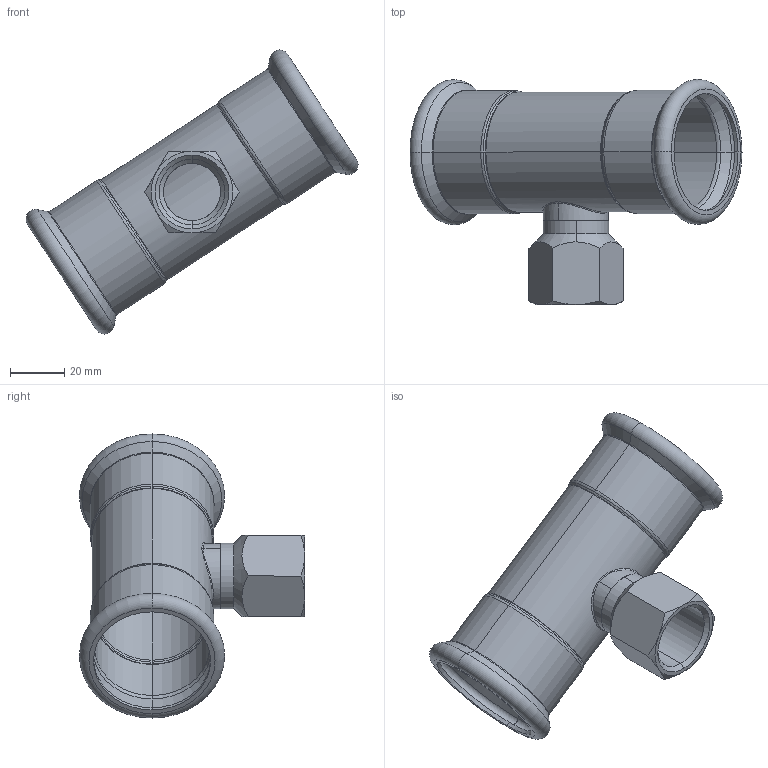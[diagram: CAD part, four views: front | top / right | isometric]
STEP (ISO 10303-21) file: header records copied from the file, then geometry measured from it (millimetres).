
FILE_DESCRIPTION (( 'STEP AP203' ), '1' );
FILE_NAME ('GDA5252.STEP', '2019-01-14T01:14:45', ( '' ), ( '' ), 'SwSTEP 2.0', 'SolidWorks 2015', '' );
FILE_SCHEMA (( 'CONFIG_CONTROL_DESIGN' ));
Length unit declared in the file: millimetre
Products named in the file (3): T(R)-¢ñ-42¡Á22''; ITC-I-03-22℅?; GDA5252
Assembly tree (2 placements, depth 2):
  GDA5252
    ITC-I-03-22℅?
    T(R)-¢ñ-42¡Á22''
Bounding box: 121.88 x 82.64 x 104.28 mm (x, y, z)
Volume: 33978.2 mm3; surface area: 40108.3 mm2
Topology: 2 solids, 2 shells, 103 faces, 218 edges, 122 vertices
Faces by surface type: torus 32, cone 28, cylinder 26, plane 13, bspline 4
Entity records: 4121 total; most frequent: CARTESIAN_POINT 1588, DIRECTION 526, ORIENTED_EDGE 436, AXIS2_PLACEMENT_3D 236, EDGE_CURVE 218, CIRCLE 132, VERTEX_POINT 122, EDGE_LOOP 112
